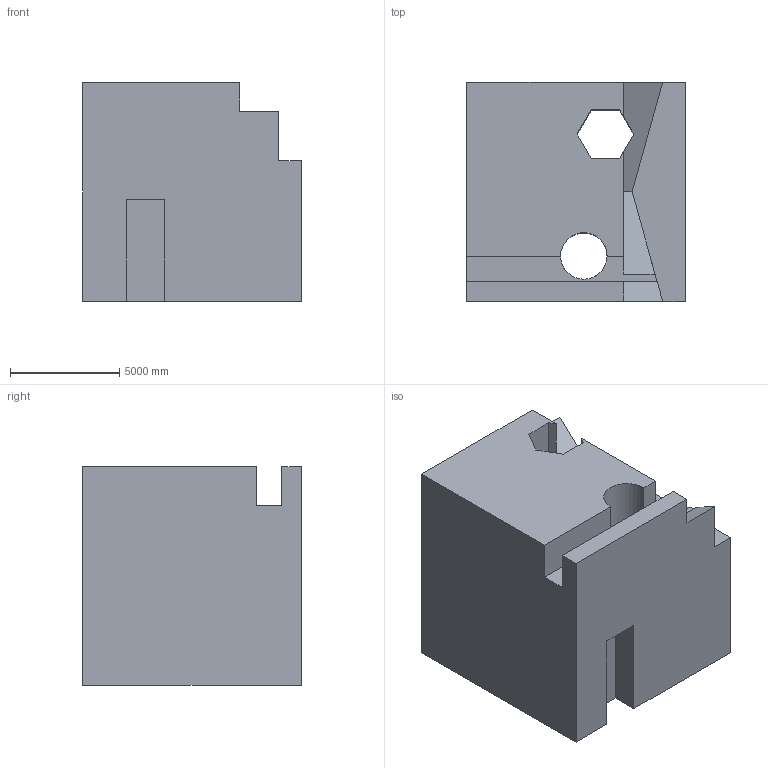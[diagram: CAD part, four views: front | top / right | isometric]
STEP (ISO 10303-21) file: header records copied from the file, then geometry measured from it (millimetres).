
FILE_DESCRIPTION (( 'STEP AP203' ), '1' );
FILE_NAME ('1651.STEP', '2022-08-19T11:22:31', ( 'user' ), ( '' ), 'SwSTEP 2.0', 'SolidWorks 2021', '' );
FILE_SCHEMA (( 'CONFIG_CONTROL_DESIGN' ));
Length unit declared in the file: centimetre
Products named in the file (1): 1651
Bounding box: 10000 x 10000 x 10000 mm (x, y, z)
Volume: 807929580784 mm3; surface area: 752373168.9 mm2
Topology: 1 solids, 1 shells, 37 faces, 113 edges, 75 vertices
Faces by surface type: plane 35, cylinder 2
Entity records: 1338 total; most frequent: ORIENTED_EDGE 226, CARTESIAN_POINT 226, DIRECTION 199, EDGE_CURVE 113, VECTOR 103, LINE 103, VERTEX_POINT 75, AXIS2_PLACEMENT_3D 48
